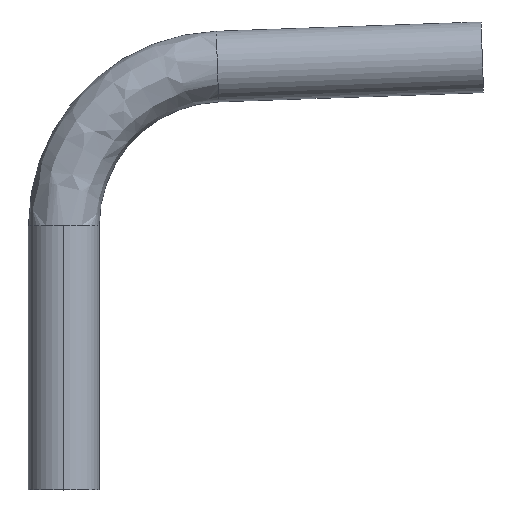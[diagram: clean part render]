
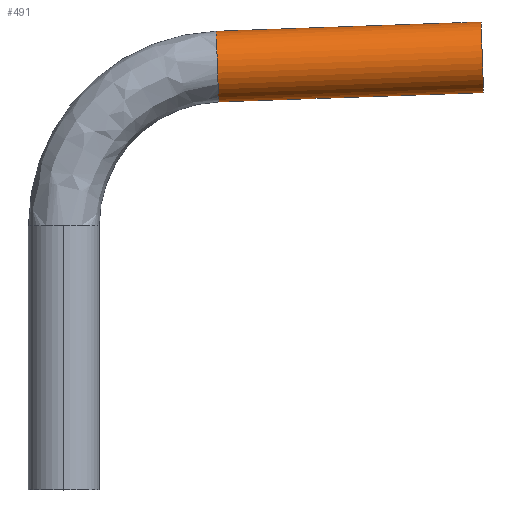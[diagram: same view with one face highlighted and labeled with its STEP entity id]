
A CAD part, top view. The second image highlights one B-rep face of the part: STEP entity #491.
In plain terms, the highlighted cylindrical face has radius 6.35 mm (diameter 12.7 mm), a partial arc.
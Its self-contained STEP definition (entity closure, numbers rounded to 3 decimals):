
#22 = EDGE_CURVE ( 'NONE', #456, #428, #306, .T. ) ;
#50 = CYLINDRICAL_SURFACE ( 'NONE', #415, 6.35 ) ;
#67 = FACE_OUTER_BOUND ( 'NONE', #437, .T. ) ;
#71 = AXIS2_PLACEMENT_3D ( 'NONE', #257, #258, #260 ) ;
#85 = DIRECTION ( 'NONE',  ( 0.999, 0.035, 0. ) ) ;
#87 = CARTESIAN_POINT ( 'NONE',  ( 27.823, 69.712, 0. ) ) ;
#112 = CIRCLE ( 'NONE', #71, 6.35 ) ;
#153 = CARTESIAN_POINT ( 'NONE',  ( 75.402, 71.374, 0. ) ) ;
#179 = CIRCLE ( 'NONE', #222, 6.35 ) ;
#180 = CARTESIAN_POINT ( 'NONE',  ( 75.18, 77.72, 0. ) ) ;
#182 = DIRECTION ( 'NONE',  ( -0.999, -0.035, 0. ) ) ;
#184 = VECTOR ( 'NONE', #85, 1000. ) ;
#185 = DIRECTION ( 'NONE',  ( -0.035, 0.999, 0. ) ) ;
#190 = EDGE_CURVE ( 'NONE', #489, #349, #192, .T. ) ;
#192 = LINE ( 'NONE', #87, #184 ) ;
#222 = AXIS2_PLACEMENT_3D ( 'NONE', #180, #182, #185 ) ;
#253 = DIRECTION ( 'NONE',  ( 0.999, 0.035, 0. ) ) ;
#257 = CARTESIAN_POINT ( 'NONE',  ( 27.602, 76.059, 0. ) ) ;
#258 = DIRECTION ( 'NONE',  ( 0.999, 0.035, 0. ) ) ;
#260 = DIRECTION ( 'NONE',  ( -0.035, 0.999, 0. ) ) ;
#273 = CARTESIAN_POINT ( 'NONE',  ( 74.958, 84.066, 0. ) ) ;
#295 = VECTOR ( 'NONE', #253, 1000. ) ;
#306 = LINE ( 'NONE', #446, #295 ) ;
#341 = DIRECTION ( 'NONE',  ( -0.035, 0.999, 0. ) ) ;
#346 = EDGE_CURVE ( 'NONE', #349, #428, #179, .T. ) ;
#349 = VERTEX_POINT ( 'NONE', #153 ) ;
#361 = CARTESIAN_POINT ( 'NONE',  ( 27.823, 69.712, 0. ) ) ;
#371 = ORIENTED_EDGE ( 'NONE', *, *, #22, .F. ) ;
#378 = ORIENTED_EDGE ( 'NONE', *, *, #190, .T. ) ;
#382 = ORIENTED_EDGE ( 'NONE', *, *, #396, .T. ) ;
#383 = DIRECTION ( 'NONE',  ( 0.999, 0.035, 0. ) ) ;
#386 = ORIENTED_EDGE ( 'NONE', *, *, #346, .T. ) ;
#396 = EDGE_CURVE ( 'NONE', #456, #489, #112, .T. ) ;
#399 = CARTESIAN_POINT ( 'NONE',  ( 27.602, 76.059, 0. ) ) ;
#415 = AXIS2_PLACEMENT_3D ( 'NONE', #399, #383, #341 ) ;
#428 = VERTEX_POINT ( 'NONE', #273 ) ;
#437 = EDGE_LOOP ( 'NONE', ( #382, #378, #386, #371 ) ) ;
#446 = CARTESIAN_POINT ( 'NONE',  ( 27.38, 82.405, 0. ) ) ;
#456 = VERTEX_POINT ( 'NONE', #479 ) ;
#479 = CARTESIAN_POINT ( 'NONE',  ( 27.38, 82.405, 0. ) ) ;
#489 = VERTEX_POINT ( 'NONE', #361 ) ;
#491 = ADVANCED_FACE ( 'NONE', ( #67 ), #50, .T. ) ;
